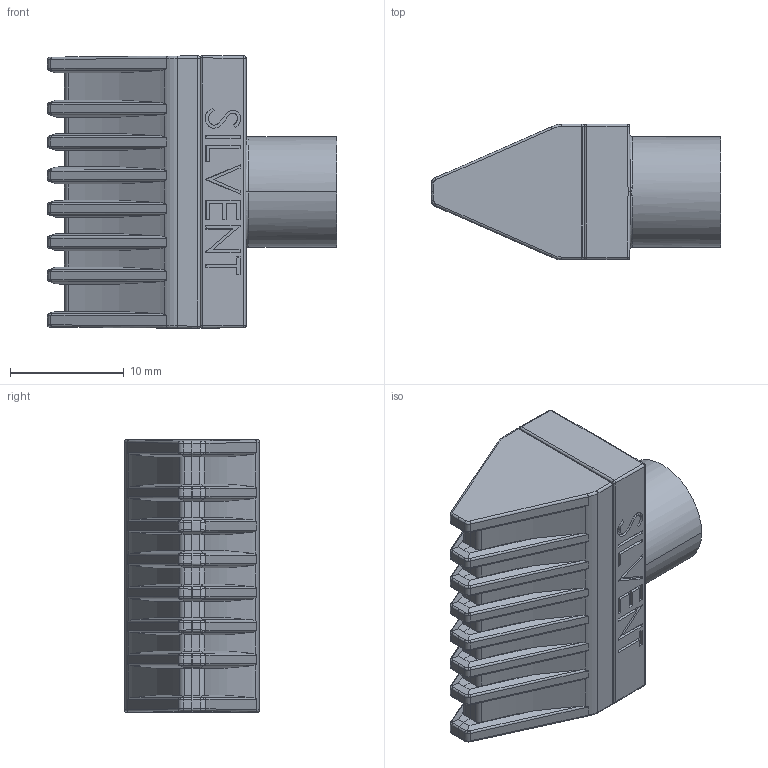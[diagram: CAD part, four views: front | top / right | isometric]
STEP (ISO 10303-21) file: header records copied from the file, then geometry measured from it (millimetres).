
FILE_DESCRIPTION (( 'STEP AP203' ), '1' );
FILE_NAME ('SILVENT 9001W-Z.STEP', '2024-02-15T13:01:48', ( '' ), ( '' ), 'SwSTEP 2.0', 'SolidWorks 2021', '' );
FILE_SCHEMA (( 'CONFIG_CONTROL_DESIGN' ));
Length unit declared in the file: millimetre
Products named in the file (1): SILVENT 9001W-Z
Bounding box: 25.46 x 11.93 x 24.02 mm (x, y, z)
Volume: 4058.2 mm3; surface area: 2472.4 mm2
Topology: 2 solids, 2 shells, 543 faces, 1399 edges, 866 vertices
Faces by surface type: plane 271, cylinder 150, bspline 98, sphere 24
Entity records: 18635 total; most frequent: CARTESIAN_POINT 6664, ORIENTED_EDGE 2770, DIRECTION 2095, EDGE_CURVE 1385, VERTEX_POINT 860, VECTOR 779, LINE 779, AXIS2_PLACEMENT_3D 658
